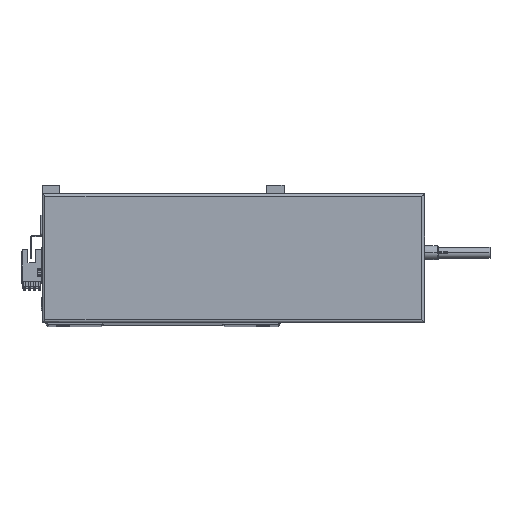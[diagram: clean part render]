
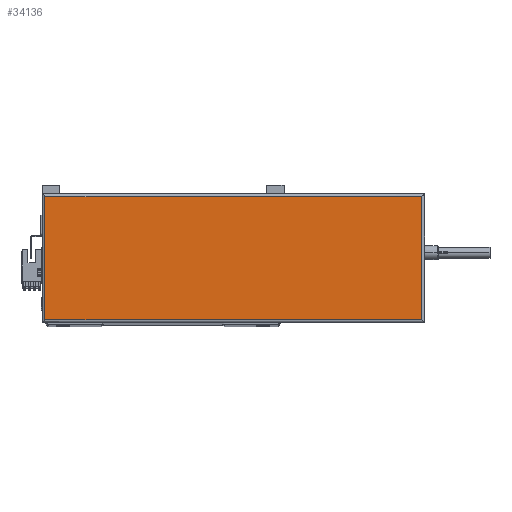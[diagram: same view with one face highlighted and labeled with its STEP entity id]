
A CAD part, top view. The second image highlights one B-rep face of the part: STEP entity #34136.
In plain terms, the highlighted planar face has unit normal (0, 0, 1).
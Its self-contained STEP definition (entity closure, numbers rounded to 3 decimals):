
#1952 = LINE ( 'NONE', #50759, #6245 ) ;
#2456 = CARTESIAN_POINT ( 'NONE',  ( 265., 2., 44.8 ) ) ;
#2740 = DIRECTION ( 'NONE',  ( 0., -1., 0. ) ) ;
#3705 = LINE ( 'NONE', #15661, #18071 ) ;
#5130 = ORIENTED_EDGE ( 'NONE', *, *, #11782, .T. ) ;
#5998 = EDGE_CURVE ( 'NONE', #9340, #22893, #1952, .T. ) ;
#6245 = VECTOR ( 'NONE', #38412, 1000. ) ;
#7450 = EDGE_CURVE ( 'NONE', #22893, #30151, #3705, .T. ) ;
#8328 = FACE_OUTER_BOUND ( 'NONE', #35042, .T. ) ;
#9169 = ORIENTED_EDGE ( 'NONE', *, *, #32630, .T. ) ;
#9340 = VERTEX_POINT ( 'NONE', #2456 ) ;
#11315 = CARTESIAN_POINT ( 'NONE',  ( 267., 2., 44.8 ) ) ;
#11782 = EDGE_CURVE ( 'NONE', #30151, #13772, #32105, .T. ) ;
#13416 = AXIS2_PLACEMENT_3D ( 'NONE', #42126, #38111, #26403 ) ;
#13772 = VERTEX_POINT ( 'NONE', #46944 ) ;
#14748 = LINE ( 'NONE', #11315, #26608 ) ;
#14978 = CARTESIAN_POINT ( 'NONE',  ( 2., 88., 44.8 ) ) ;
#15661 = CARTESIAN_POINT ( 'NONE',  ( 0., 88., 44.8 ) ) ;
#18071 = VECTOR ( 'NONE', #35715, 1000. ) ;
#18733 = ORIENTED_EDGE ( 'NONE', *, *, #7450, .T. ) ;
#22893 = VERTEX_POINT ( 'NONE', #36406 ) ;
#26403 = DIRECTION ( 'NONE',  ( 1., 0., 0. ) ) ;
#26608 = VECTOR ( 'NONE', #27566, 1000. ) ;
#27566 = DIRECTION ( 'NONE',  ( 1., 0., 0. ) ) ;
#29698 = ORIENTED_EDGE ( 'NONE', *, *, #5998, .T. ) ;
#30151 = VERTEX_POINT ( 'NONE', #14978 ) ;
#32105 = LINE ( 'NONE', #35218, #42719 ) ;
#32630 = EDGE_CURVE ( 'NONE', #13772, #9340, #14748, .T. ) ;
#34136 = ADVANCED_FACE ( 'NONE', ( #8328 ), #42294, .T. ) ;
#35042 = EDGE_LOOP ( 'NONE', ( #29698, #18733, #5130, #9169 ) ) ;
#35218 = CARTESIAN_POINT ( 'NONE',  ( 2., 0., 44.8 ) ) ;
#35715 = DIRECTION ( 'NONE',  ( -1., 0., 0. ) ) ;
#36406 = CARTESIAN_POINT ( 'NONE',  ( 265., 88., 44.8 ) ) ;
#38111 = DIRECTION ( 'NONE',  ( 0., 0., 1. ) ) ;
#38412 = DIRECTION ( 'NONE',  ( 0., 1., 0. ) ) ;
#42126 = CARTESIAN_POINT ( 'NONE',  ( 133.5, 45., 44.8 ) ) ;
#42294 = PLANE ( 'NONE',  #13416 ) ;
#42719 = VECTOR ( 'NONE', #2740, 1000. ) ;
#46944 = CARTESIAN_POINT ( 'NONE',  ( 2., 2., 44.8 ) ) ;
#50759 = CARTESIAN_POINT ( 'NONE',  ( 265., 90., 44.8 ) ) ;
